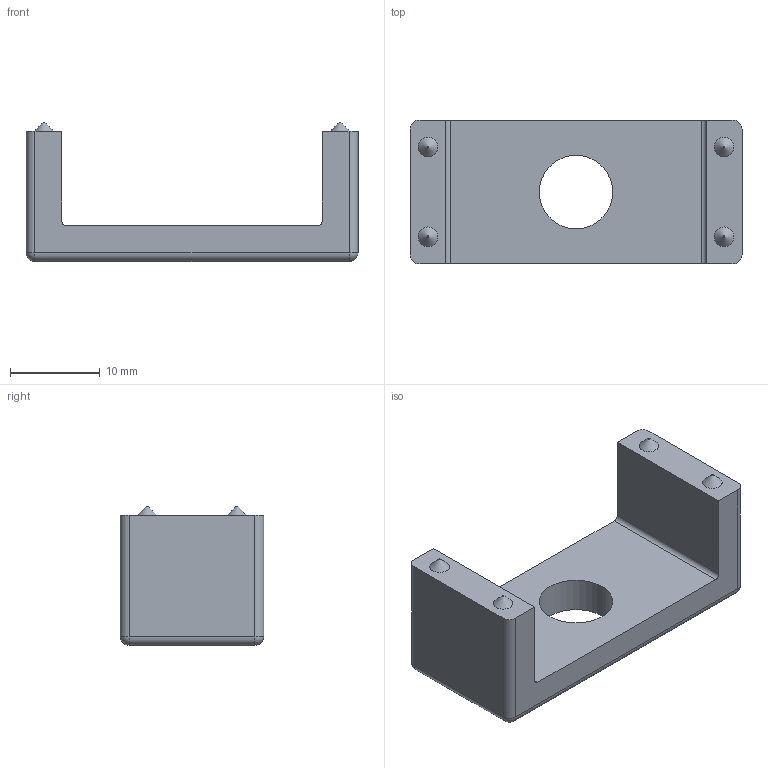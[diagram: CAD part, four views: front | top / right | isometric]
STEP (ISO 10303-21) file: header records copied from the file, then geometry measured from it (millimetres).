
FILE_DESCRIPTION(/* description */ ('Central fixation guide rail 40 mm'),/* implementation_level */ '2;1');
FILE_NAME(/* name */ 'C:\Users\apromt\Desktop\tekeningen\stp\SG1400020001.stp',/* time_stamp */ '2021-11-11T10:44:50+01:00',/* author */ ('rens'),/* organization */ (''),/* preprocessor_version */ 'ST-DEVELOPER v18.1',/* originating_system */ 'Autodesk Inventor 2021',/* authorisation */ '');
FILE_SCHEMA (('AUTOMOTIVE_DESIGN { 1 0 10303 214 3 1 1 }'));
Length unit declared in the file: millimetre
Products named in the file (1): SG1400020001
Bounding box: 37 x 16 x 15.5 mm (x, y, z)
Volume: 3473.5 mm3; surface area: 2373.2 mm2
Topology: 1 solids, 1 shells, 33 faces, 73 edges, 42 vertices
Faces by surface type: plane 14, cylinder 11, cone 4, sphere 4
Full cylindrical faces by diameter (mm): 8.2 x1
Entity records: 955 total; most frequent: DIRECTION 167, CARTESIAN_POINT 145, ORIENTED_EDGE 138, EDGE_CURVE 69, AXIS2_PLACEMENT_3D 64, VERTEX_POINT 42, EDGE_LOOP 39, LINE 39
